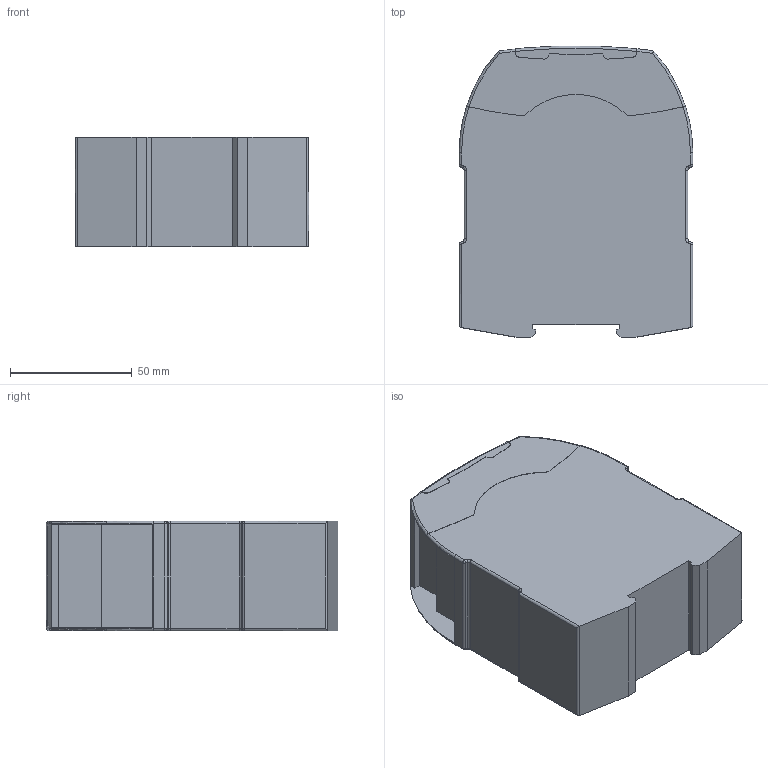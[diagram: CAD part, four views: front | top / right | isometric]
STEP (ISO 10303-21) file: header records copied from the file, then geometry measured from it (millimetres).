
FILE_DESCRIPTION((''),'2;1');
FILE_NAME('2006655','2010-07-13T',('merz'),(''),'PRO/ENGINEER BY PARAMETRIC TECHNOLOGY CORPORATION, 2009380','PRO/ENGINEER BY PARAMETRIC TECHNOLOGY CORPORATION, 2009380','');
FILE_SCHEMA(('AUTOMOTIVE_DESIGN_CC2 { 1 2 10303 214 -1 1 5 2 }'));
Length unit declared in the file: millimetre
Products named in the file (1): 2006655
Bounding box: 96 x 119.98 x 45 mm (x, y, z)
Volume: 440888.1 mm3; surface area: 42515.7 mm2
Topology: 1 solids, 1 shells, 197 faces, 545 edges, 386 vertices
Faces by surface type: plane 89, cylinder 74, torus 26, sphere 8
Entity records: 8310 total; most frequent: CARTESIAN_POINT 1561, DIRECTION 1041, ORIENTED_EDGE 1032, PRESENTATION_STYLE_ASSIGNMENT 551, STYLED_ITEM 546, CURVE_STYLE 545, EDGE_CURVE 516, AXIS2_PLACEMENT_3D 368
